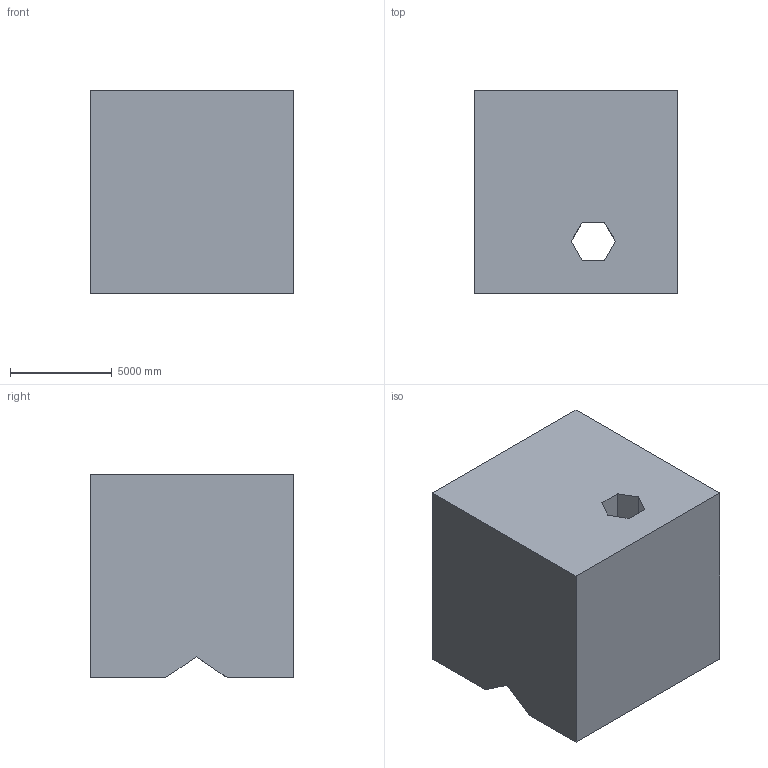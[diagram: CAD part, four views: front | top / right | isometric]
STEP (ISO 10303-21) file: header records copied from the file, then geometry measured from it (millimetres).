
FILE_DESCRIPTION (( 'STEP AP203' ), '1' );
FILE_NAME ('324.STEP', '2022-07-28T14:20:41', ( 'user' ), ( '' ), 'SwSTEP 2.0', 'SolidWorks 2021', '' );
FILE_SCHEMA (( 'CONFIG_CONTROL_DESIGN' ));
Length unit declared in the file: centimetre
Products named in the file (1): 324
Bounding box: 10000 x 10000 x 10000 mm (x, y, z)
Volume: 937797100323.4 mm3; surface area: 690070319.3 mm2
Topology: 1 solids, 1 shells, 25 faces, 66 edges, 44 vertices
Faces by surface type: plane 19, cylinder 6
Entity records: 853 total; most frequent: CARTESIAN_POINT 136, ORIENTED_EDGE 132, DIRECTION 130, EDGE_CURVE 66, LINE 54, VECTOR 54, VERTEX_POINT 44, AXIS2_PLACEMENT_3D 38
